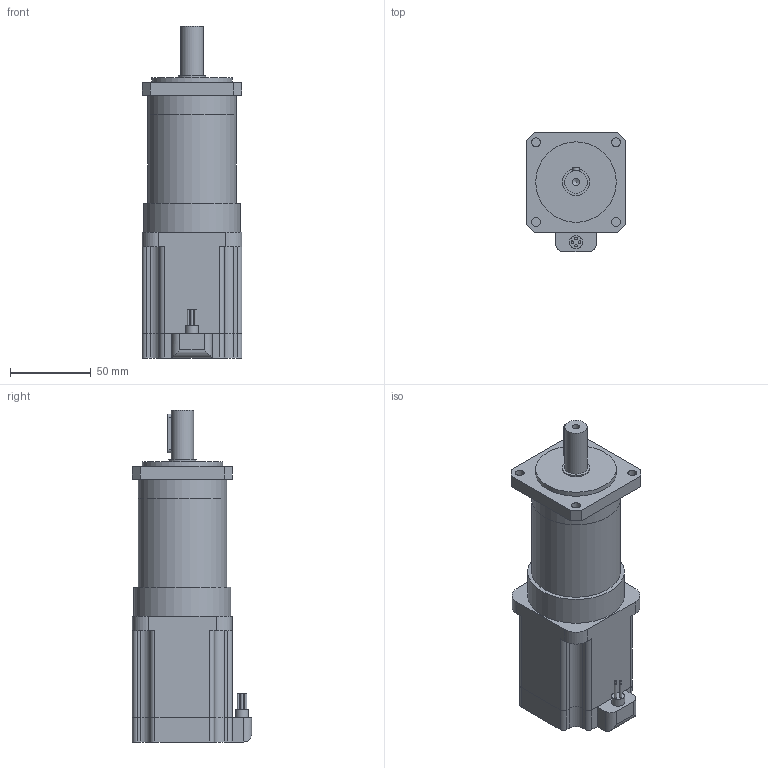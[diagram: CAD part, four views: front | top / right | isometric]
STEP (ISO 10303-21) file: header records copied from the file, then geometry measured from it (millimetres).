
FILE_DESCRIPTION(/* description */ (''),/* implementation_level */ '2;1');
FILE_NAME(/* name */ '62PG025-D42-0478.stp',/* time_stamp */ '2018-08-24T16:36:45+08:00',/* author */ (''),/* organization */ (''),/* preprocessor_version */ 'ST-DEVELOPER v11',/* originating_system */ 'SIEMENS UGS NX 6.0',/* authorisation */ '');
FILE_SCHEMA (('CONFIG_CONTROL_DESIGN'));
Length unit declared in the file: millimetre
Products named in the file (1): 62PG015-D42-0478
Bounding box: 62 x 74 x 206 mm (x, y, z)
Volume: 521823.9 mm3; surface area: 60169.1 mm2
Topology: 3 solids, 3 shells, 110 faces, 279 edges, 187 vertices
Faces by surface type: plane 60, cylinder 49, cone 1
Full cylindrical faces by diameter (mm): 1.5 x4, 4.5 x1, 5.5 x4, 8 x1, 14 x1, 17 x1, 50 x1, 55 x2, 60 x1
Entity records: 3351 total; most frequent: CARTESIAN_POINT 607, DIRECTION 569, ORIENTED_EDGE 510, EDGE_CURVE 255, AXIS2_PLACEMENT_3D 205, VERTEX_POINT 181, LINE 159, VECTOR 159
